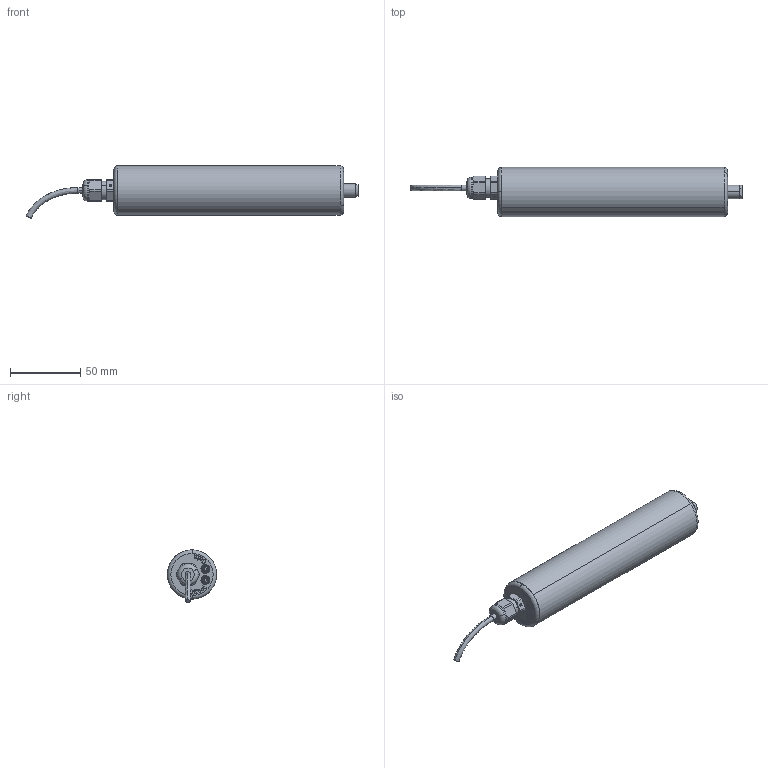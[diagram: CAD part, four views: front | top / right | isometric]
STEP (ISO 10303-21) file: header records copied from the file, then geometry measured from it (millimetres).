
FILE_DESCRIPTION (( 'STEP AP214' ), '1' );
FILE_NAME ('P101-5AJ.STEP', '2025-04-10T10:27:11', ( '' ), ( '' ), 'SwSTEP 2.0', 'SolidWorks 2023', '' );
FILE_SCHEMA (( 'AUTOMOTIVE_DESIGN' ));
Length unit declared in the file: millimetre
Products named in the file (1): P101-5AJ
Bounding box: 235.75 x 35 x 37.14 mm (x, y, z)
Surface area: 24587.4 mm2 (no closed solid volume)
Topology: 0 solids, 11 shells, 218 faces, 1195 edges, 964 vertices
Faces by surface type: plane 133, cylinder 41, cone 34, torus 8, bspline 2
Entity records: 11931 total; most frequent: CARTESIAN_POINT 2836, DIRECTION 1771, ORIENTED_EDGE 1634, EDGE_CURVE 1195, VERTEX_POINT 964, VECTOR 961, LINE 961, AXIS2_PLACEMENT_3D 405
